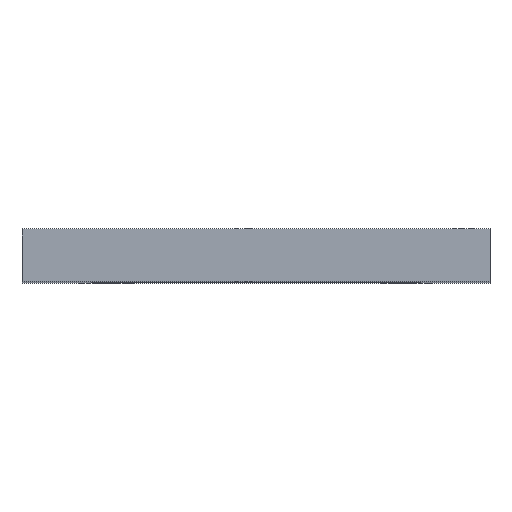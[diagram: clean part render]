
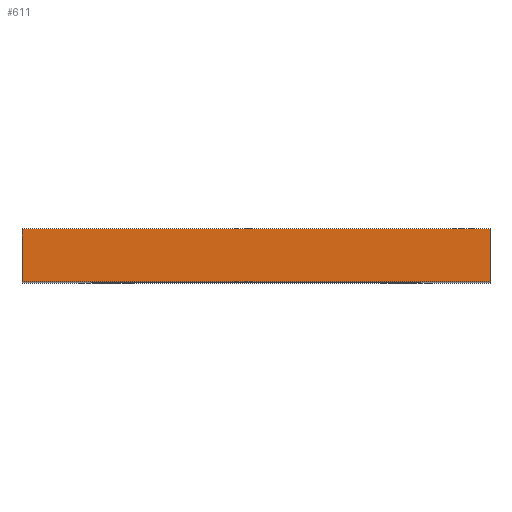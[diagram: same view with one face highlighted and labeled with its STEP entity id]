
A CAD part, top view. The second image highlights one B-rep face of the part: STEP entity #611.
In plain terms, the highlighted planar face has unit normal (0, 0, 1).
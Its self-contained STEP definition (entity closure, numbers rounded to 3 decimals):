
#32 = LINE ( 'NONE', #407, #817 ) ;
#98 = CARTESIAN_POINT ( 'NONE',  ( 0., 3.95, 0. ) ) ;
#115 = EDGE_CURVE ( 'NONE', #165, #650, #354, .T. ) ;
#119 = DIRECTION ( 'NONE',  ( 1., 0., 0. ) ) ;
#162 = ORIENTED_EDGE ( 'NONE', *, *, #220, .T. ) ;
#165 = VERTEX_POINT ( 'NONE', #320 ) ;
#172 = EDGE_CURVE ( 'NONE', #524, #930, #393, .T. ) ;
#205 = FACE_OUTER_BOUND ( 'NONE', #897, .T. ) ;
#214 = VECTOR ( 'NONE', #119, 1000. ) ;
#220 = EDGE_CURVE ( 'NONE', #165, #524, #32, .T. ) ;
#222 = ORIENTED_EDGE ( 'NONE', *, *, #316, .F. ) ;
#279 = ORIENTED_EDGE ( 'NONE', *, *, #115, .F. ) ;
#286 = DIRECTION ( 'NONE',  ( 0., 0., -1. ) ) ;
#316 = EDGE_CURVE ( 'NONE', #650, #930, #977, .T. ) ;
#320 = CARTESIAN_POINT ( 'NONE',  ( 0., 3.95, 0. ) ) ;
#347 = DIRECTION ( 'NONE',  ( 0., -1., 0. ) ) ;
#354 = LINE ( 'NONE', #98, #889 ) ;
#359 = CARTESIAN_POINT ( 'NONE',  ( 0., -3.95, 0. ) ) ;
#393 = LINE ( 'NONE', #921, #214 ) ;
#407 = CARTESIAN_POINT ( 'NONE',  ( 0., 3.95, 0. ) ) ;
#448 = DIRECTION ( 'NONE',  ( 1., 0., 0. ) ) ;
#481 = CARTESIAN_POINT ( 'NONE',  ( 69.8, 3.95, 0. ) ) ;
#486 = DIRECTION ( 'NONE',  ( -1., 0., 0. ) ) ;
#521 = CARTESIAN_POINT ( 'NONE',  ( 69.8, -3.95, 0. ) ) ;
#524 = VERTEX_POINT ( 'NONE', #359 ) ;
#562 = PLANE ( 'NONE',  #932 ) ;
#611 = ADVANCED_FACE ( 'NONE', ( #205 ), #562, .F. ) ;
#650 = VERTEX_POINT ( 'NONE', #481 ) ;
#817 = VECTOR ( 'NONE', #1126, 1000. ) ;
#883 = CARTESIAN_POINT ( 'NONE',  ( 69.8, 3.95, 0. ) ) ;
#889 = VECTOR ( 'NONE', #448, 1000. ) ;
#897 = EDGE_LOOP ( 'NONE', ( #1088, #222, #279, #162 ) ) ;
#921 = CARTESIAN_POINT ( 'NONE',  ( 0., -3.95, 0. ) ) ;
#930 = VERTEX_POINT ( 'NONE', #521 ) ;
#932 = AXIS2_PLACEMENT_3D ( 'NONE', #1020, #286, #486 ) ;
#968 = VECTOR ( 'NONE', #347, 1000. ) ;
#977 = LINE ( 'NONE', #883, #968 ) ;
#1020 = CARTESIAN_POINT ( 'NONE',  ( 0., 3.95, 0. ) ) ;
#1088 = ORIENTED_EDGE ( 'NONE', *, *, #172, .T. ) ;
#1126 = DIRECTION ( 'NONE',  ( 0., -1., 0. ) ) ;
